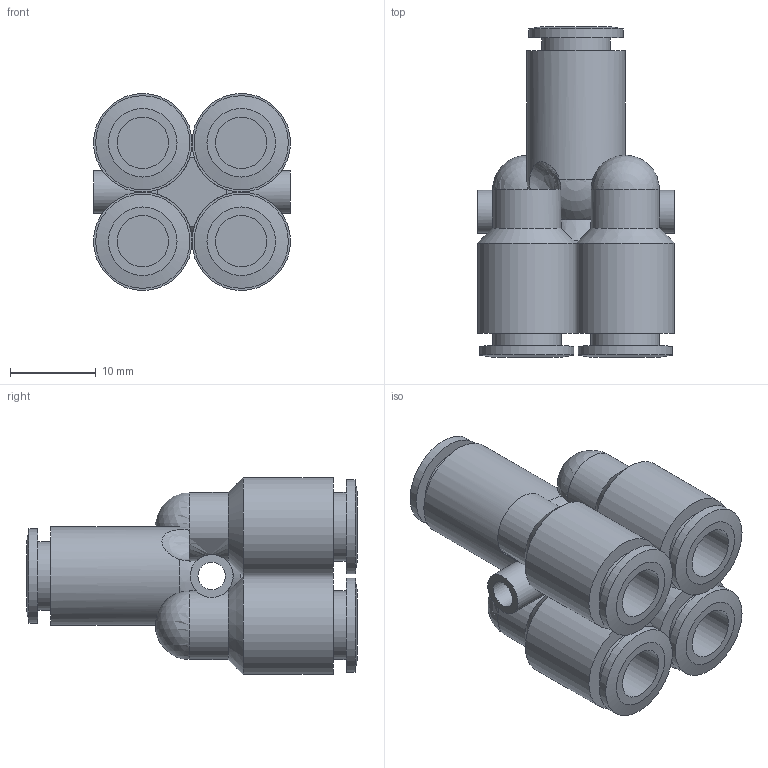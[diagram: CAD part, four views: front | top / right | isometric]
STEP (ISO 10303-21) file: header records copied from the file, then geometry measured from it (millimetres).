
FILE_DESCRIPTION((''),'2;1');
FILE_NAME('C:\Documents and Settings\rivolro1\Documenti\copia di Raccordi\PLASTICA\T24XXXX\T240600.stp','2007-11-02T15:05:20',('Rivolro1'),(''),'Autodesk Inventor 2008','Autodesk Inventor 2008','');
FILE_SCHEMA(('AUTOMOTIVE_DESIGN { 1 0 10303 214 1 1 1 1 }'));
Length unit declared in the file: millimetre
Products named in the file (1): T240600
Bounding box: 23 x 38.6 x 23 mm (x, y, z)
Volume: 7308.5 mm3; surface area: 6113.4 mm2
Topology: 1 solids, 1 shells, 78 faces, 218 edges, 131 vertices
Faces by surface type: bspline 27, cylinder 24, plane 15, sphere 6, cone 6
Full cylindrical faces by diameter (mm): 5 x2, 6 x3, 8 x5, 11 x3, 11.5 x1
Entity records: 3003 total; most frequent: CARTESIAN_POINT 1312, DIRECTION 324, ORIENTED_EDGE 312, EDGE_CURVE 156, AXIS2_PLACEMENT_3D 154, EDGE_LOOP 126, VERTEX_POINT 114, CIRCLE 104
